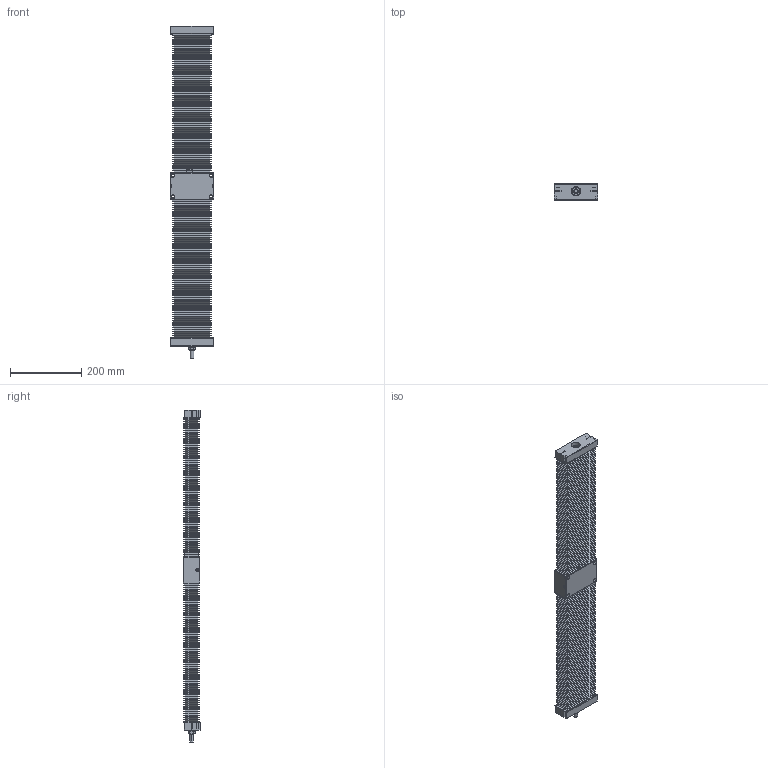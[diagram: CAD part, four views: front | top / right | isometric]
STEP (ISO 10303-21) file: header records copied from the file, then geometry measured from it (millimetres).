
FILE_DESCRIPTION (( 'STEP AP214' ), '1' );
FILE_NAME ('TKC1610B-500H0C-Ä£×é.step', '2025-08-25T08:38:37', ( '' ), ( '' ), 'SwSTEP 2.0', 'SolidWorks 2024', '' );
FILE_SCHEMA (( 'AUTOMOTIVE_DESIGN' ));
Length unit declared in the file: millimetre
Products named in the file (4): TKC16-500-01; TKC1610B-500H0C-模组; TKC16-02; TKC16-500-03
Assembly tree (4 placements, depth 2):
  TKC1610B-500H0C-模组
    TKC16-02
    TKC16-500-01
    TKC16-500-03  x2
Bounding box: 122 x 48 x 932.5 mm (x, y, z)
Volume: 2591906.4 mm3; surface area: 909138.4 mm2
Topology: 10 solids, 14 shells, 2384 faces, 5244 edges, 2927 vertices
Faces by surface type: plane 1856, cylinder 453, cone 36, torus 28, bspline 11
Entity records: 55475 total; most frequent: CARTESIAN_POINT 20774, ORIENTED_EDGE 7200, DIRECTION 6748, EDGE_CURVE 3600, VECTOR 2596, LINE 2596, VERTEX_POINT 2111, AXIS2_PLACEMENT_3D 2076
